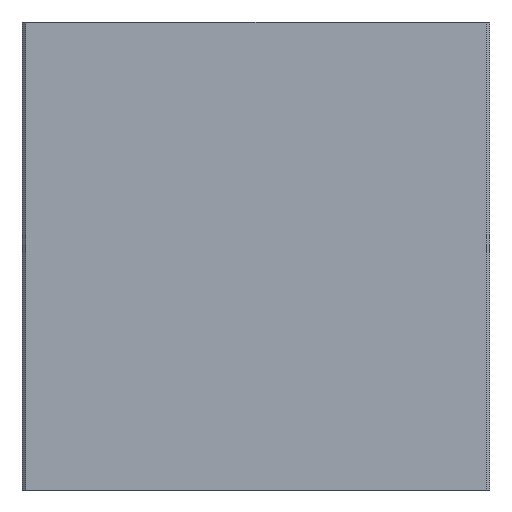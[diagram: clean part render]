
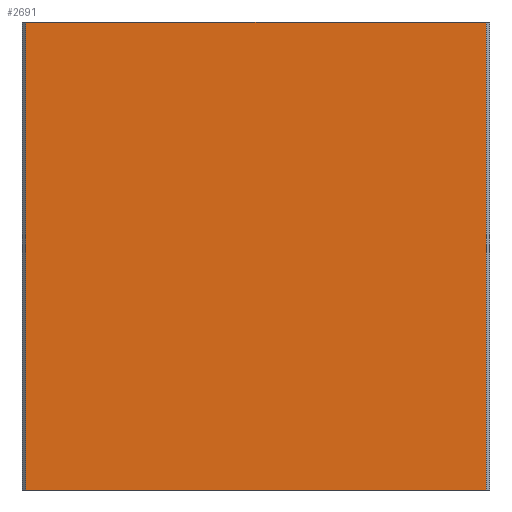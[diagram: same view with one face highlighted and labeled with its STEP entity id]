
A CAD part, front view. The second image highlights one B-rep face of the part: STEP entity #2691.
In plain terms, the highlighted planar face has unit normal (0, -1, 0).
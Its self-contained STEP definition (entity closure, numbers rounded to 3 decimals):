
#19 = LINE ( 'NONE', #435, #978 ) ;
#43 = DIRECTION ( 'NONE',  ( 0., 0., 1. ) ) ;
#56 = LINE ( 'NONE', #2364, #1073 ) ;
#57 = VECTOR ( 'NONE', #1026, 1000. ) ;
#347 = PLANE ( 'NONE',  #2636 ) ;
#435 = CARTESIAN_POINT ( 'NONE',  ( -55.065, -21.022, -50. ) ) ;
#462 = ORIENTED_EDGE ( 'NONE', *, *, #2313, .F. ) ;
#680 = DIRECTION ( 'NONE',  ( 1., 0., 0. ) ) ;
#800 = EDGE_CURVE ( 'NONE', #2206, #2259, #1406, .T. ) ;
#872 = CARTESIAN_POINT ( 'NONE',  ( 43.255, -21.022, 50. ) ) ;
#886 = DIRECTION ( 'NONE',  ( 0., 0., -1. ) ) ;
#937 = CARTESIAN_POINT ( 'NONE',  ( -55.065, -21.022, 50. ) ) ;
#978 = VECTOR ( 'NONE', #1690, 1000. ) ;
#1022 = DIRECTION ( 'NONE',  ( 0., 1., 0. ) ) ;
#1026 = DIRECTION ( 'NONE',  ( 0., 0., -1. ) ) ;
#1073 = VECTOR ( 'NONE', #886, 1000. ) ;
#1160 = CARTESIAN_POINT ( 'NONE',  ( -55.065, -21.022, 50. ) ) ;
#1216 = VERTEX_POINT ( 'NONE', #1553 ) ;
#1406 = LINE ( 'NONE', #1607, #2641 ) ;
#1450 = EDGE_CURVE ( 'NONE', #2206, #1621, #1890, .T. ) ;
#1523 = CARTESIAN_POINT ( 'NONE',  ( -55.065, -21.022, 50. ) ) ;
#1553 = CARTESIAN_POINT ( 'NONE',  ( 43.255, -21.022, -50. ) ) ;
#1607 = CARTESIAN_POINT ( 'NONE',  ( -55.065, -21.022, 50. ) ) ;
#1621 = VERTEX_POINT ( 'NONE', #2688 ) ;
#1655 = ORIENTED_EDGE ( 'NONE', *, *, #1797, .T. ) ;
#1690 = DIRECTION ( 'NONE',  ( 1., 0., 0. ) ) ;
#1797 = EDGE_CURVE ( 'NONE', #1621, #1216, #19, .T. ) ;
#1884 = FACE_OUTER_BOUND ( 'NONE', #2849, .T. ) ;
#1890 = LINE ( 'NONE', #937, #57 ) ;
#2206 = VERTEX_POINT ( 'NONE', #1160 ) ;
#2259 = VERTEX_POINT ( 'NONE', #872 ) ;
#2313 = EDGE_CURVE ( 'NONE', #2259, #1216, #56, .T. ) ;
#2314 = ORIENTED_EDGE ( 'NONE', *, *, #1450, .T. ) ;
#2364 = CARTESIAN_POINT ( 'NONE',  ( 43.255, -21.022, 50. ) ) ;
#2373 = ORIENTED_EDGE ( 'NONE', *, *, #800, .F. ) ;
#2636 = AXIS2_PLACEMENT_3D ( 'NONE', #1523, #1022, #43 ) ;
#2641 = VECTOR ( 'NONE', #680, 1000. ) ;
#2688 = CARTESIAN_POINT ( 'NONE',  ( -55.065, -21.022, -50. ) ) ;
#2691 = ADVANCED_FACE ( 'NONE', ( #1884 ), #347, .F. ) ;
#2849 = EDGE_LOOP ( 'NONE', ( #1655, #462, #2373, #2314 ) ) ;
